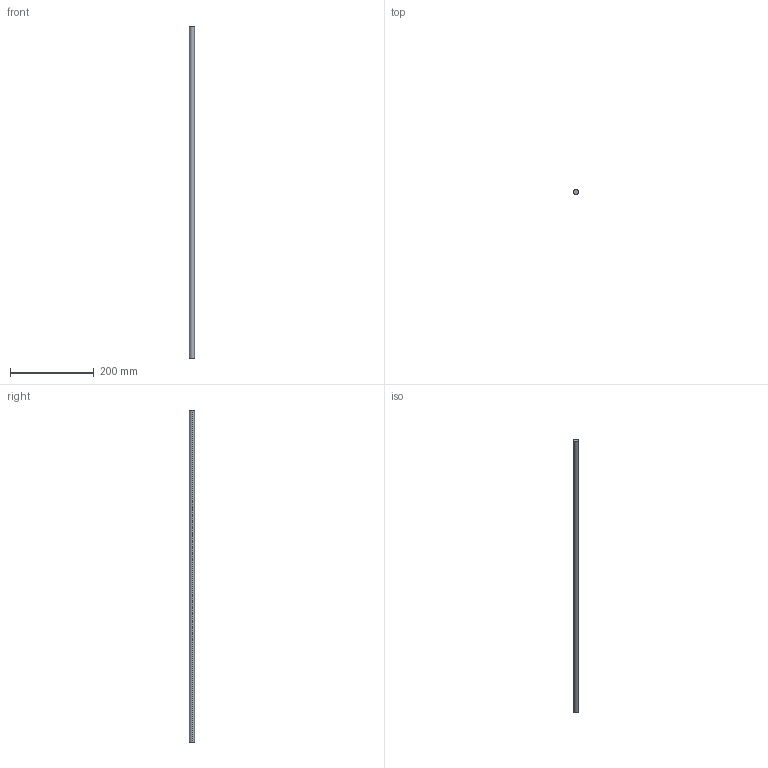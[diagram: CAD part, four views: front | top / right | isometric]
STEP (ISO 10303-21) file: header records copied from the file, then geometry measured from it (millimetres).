
FILE_DESCRIPTION (( 'STEP AP214' ), '1' );
FILE_NAME ('Magic Reling quer - S16_S17 - 900.step', '2010-09-07T14:56:09', ( 'grass' ), ( '' ), 'SwSTEP 2.0', 'SolidWorks 2010', '' );
FILE_SCHEMA (( 'AUTOMOTIVE_DESIGN' ));
Length unit declared in the file: millimetre
Products named in the file (1): Magic Reling quer - S16_S17 - 900
Bounding box: 12 x 12 x 795 mm (x, y, z)
Volume: 89912.4 mm3; surface area: 30197 mm2
Topology: 1 solids, 1 shells, 4 faces, 6 edges, 4 vertices
Faces by surface type: cylinder 2, plane 2
Entity records: 128 total; most frequent: DIRECTION 20, CARTESIAN_POINT 15, ORIENTED_EDGE 12, AXIS2_PLACEMENT_3D 9, EDGE_CURVE 6, VERTEX_POINT 4, ADVANCED_FACE 4, FACE_OUTER_BOUND 4
